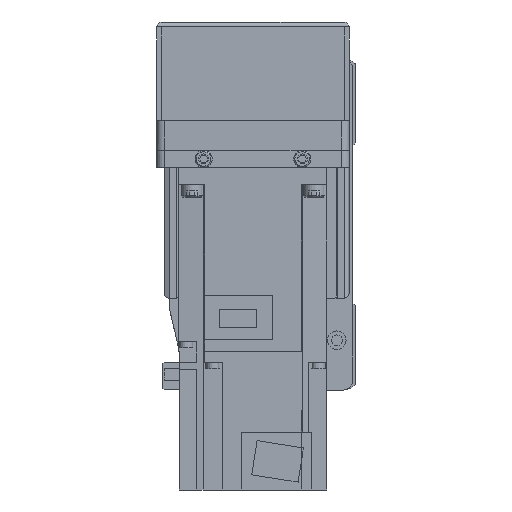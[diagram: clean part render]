
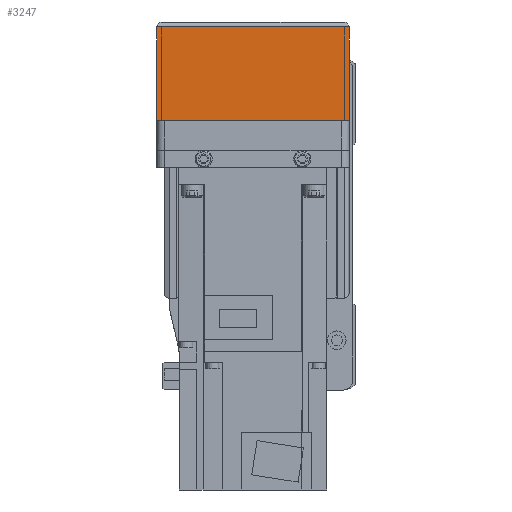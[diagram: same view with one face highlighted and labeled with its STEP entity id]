
A CAD part, left-side view. The second image highlights one B-rep face of the part: STEP entity #3247.
In plain terms, the highlighted planar face has unit normal (-1, 0, 0).
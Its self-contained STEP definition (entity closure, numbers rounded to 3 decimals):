
#3247 = ADVANCED_FACE( '', ( #6850 ), #6851, .F. );
#6850 = FACE_OUTER_BOUND( '', #10529, .T. );
#6851 = PLANE( '', #10530 );
#10529 = EDGE_LOOP( '', ( #19575, #19576, #19577, #19578 ) );
#10530 = AXIS2_PLACEMENT_3D( '', #19579, #19580, #19581 );
#19575 = ORIENTED_EDGE( '', *, *, #23298, .F. );
#19576 = ORIENTED_EDGE( '', *, *, #23981, .F. );
#19577 = ORIENTED_EDGE( '', *, *, #22455, .T. );
#19578 = ORIENTED_EDGE( '', *, *, #20812, .F. );
#19579 = CARTESIAN_POINT( '', ( -158., 36., 7. ) );
#19580 = DIRECTION( '', ( 1., 0., 0. ) );
#19581 = DIRECTION( '', ( 0., 0., -1. ) );
#20812 = EDGE_CURVE( '', #24804, #24806, #24807, .T. );
#22455 = EDGE_CURVE( '', #27502, #24806, #27508, .T. );
#23298 = EDGE_CURVE( '', #27791, #24804, #28679, .T. );
#23981 = EDGE_CURVE( '', #27502, #27791, #29500, .T. );
#24804 = VERTEX_POINT( '', #30919 );
#24806 = VERTEX_POINT( '', #30922 );
#24807 = LINE( '', #30923, #30924 );
#27502 = VERTEX_POINT( '', #35132 );
#27508 = LINE( '', #35139, #35140 );
#27791 = VERTEX_POINT( '', #35611 );
#28679 = LINE( '', #36985, #36986 );
#29500 = LINE( '', #38195, #38196 );
#30919 = CARTESIAN_POINT( '', ( -158., -39., -12.1 ) );
#30922 = CARTESIAN_POINT( '', ( -158., -39., -50. ) );
#30923 = CARTESIAN_POINT( '', ( -158., -39., -12.1 ) );
#30924 = VECTOR( '', #38849, 1000. );
#35132 = CARTESIAN_POINT( '', ( -158., 39., -50. ) );
#35139 = CARTESIAN_POINT( '', ( -158., 40., -50. ) );
#35140 = VECTOR( '', #41002, 1000. );
#35611 = CARTESIAN_POINT( '', ( -158., 39., -12.1 ) );
#36985 = CARTESIAN_POINT( '', ( -158., 50., -12.1 ) );
#36986 = VECTOR( '', #41905, 1000. );
#38195 = CARTESIAN_POINT( '', ( -158., 39., -50. ) );
#38196 = VECTOR( '', #42519, 1000. );
#38849 = DIRECTION( '', ( 0., 0., -1. ) );
#41002 = DIRECTION( '', ( 0., -1., 0. ) );
#41905 = DIRECTION( '', ( 0., -1., 0. ) );
#42519 = DIRECTION( '', ( 0., 0., 1. ) );
